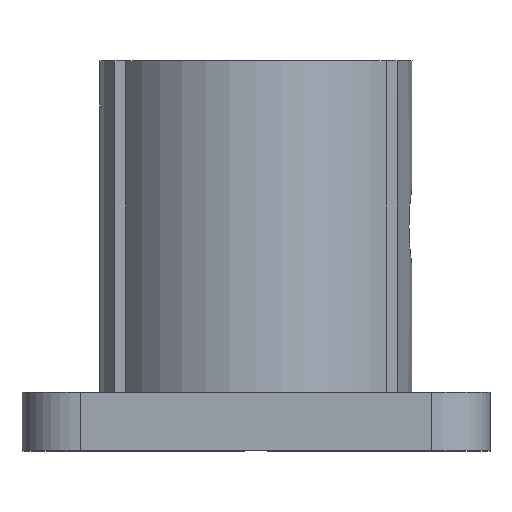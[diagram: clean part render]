
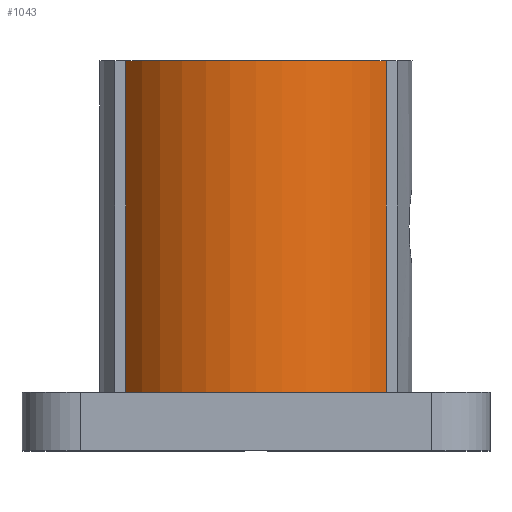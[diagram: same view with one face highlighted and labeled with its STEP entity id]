
A CAD part, top view. The second image highlights one B-rep face of the part: STEP entity #1043.
In plain terms, the highlighted cylindrical face has radius 40 mm (diameter 80 mm), a partial arc.
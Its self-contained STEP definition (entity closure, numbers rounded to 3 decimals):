
#153 = CARTESIAN_POINT ( 'NONE',  ( -33.407, 100., 22. ) ) ;
#445 = LINE ( 'NONE', #461, #450 ) ;
#449 = DIRECTION ( 'NONE',  ( 0., -1., 0. ) ) ;
#450 = VECTOR ( 'NONE', #449, 1000. ) ;
#456 = CARTESIAN_POINT ( 'NONE',  ( 33.407, 15., 22. ) ) ;
#457 = DIRECTION ( 'NONE',  ( 0., 0., -1. ) ) ;
#458 = DIRECTION ( 'NONE',  ( 0., -1., 0. ) ) ;
#459 = CARTESIAN_POINT ( 'NONE',  ( 0., 15., 0. ) ) ;
#460 = AXIS2_PLACEMENT_3D ( 'NONE', #459, #458, #457 ) ;
#461 = CARTESIAN_POINT ( 'NONE',  ( 33.407, 0., 22. ) ) ;
#463 = CARTESIAN_POINT ( 'NONE',  ( -33.407, 15., 22. ) ) ;
#469 = CIRCLE ( 'NONE', #460, 40. ) ;
#535 = FACE_OUTER_BOUND ( 'NONE', #1044, .T. ) ;
#550 = CARTESIAN_POINT ( 'NONE',  ( 0., 0., 0. ) ) ;
#551 = AXIS2_PLACEMENT_3D ( 'NONE', #550, #566, #565 ) ;
#552 = CYLINDRICAL_SURFACE ( 'NONE', #551, 40. ) ;
#565 = DIRECTION ( 'NONE',  ( 0., 0., -1. ) ) ;
#566 = DIRECTION ( 'NONE',  ( 0., -1., 0. ) ) ;
#1004 = EDGE_CURVE ( 'NONE', #1152, #1072, #2228, .T. ) ;
#1026 = VERTEX_POINT ( 'NONE', #2391 ) ;
#1027 = ORIENTED_EDGE ( 'NONE', *, *, #1028, .F. ) ;
#1028 = EDGE_CURVE ( 'NONE', #1152, #1026, #2390, .T. ) ;
#1043 = ADVANCED_FACE ( 'NONE', ( #535 ), #552, .T. ) ;
#1044 = EDGE_LOOP ( 'NONE', ( #1080, #1081, #1084, #1027 ) ) ;
#1072 = VERTEX_POINT ( 'NONE', #463 ) ;
#1080 = ORIENTED_EDGE ( 'NONE', *, *, #1004, .T. ) ;
#1081 = ORIENTED_EDGE ( 'NONE', *, *, #1082, .F. ) ;
#1082 = EDGE_CURVE ( 'NONE', #1083, #1072, #469, .T. ) ;
#1083 = VERTEX_POINT ( 'NONE', #456 ) ;
#1084 = ORIENTED_EDGE ( 'NONE', *, *, #1085, .F. ) ;
#1085 = EDGE_CURVE ( 'NONE', #1026, #1083, #445, .T. ) ;
#1152 = VERTEX_POINT ( 'NONE', #153 ) ;
#1945 = DIRECTION ( 'NONE',  ( 0., 0., -1. ) ) ;
#2225 = DIRECTION ( 'NONE',  ( 0., -1., 0. ) ) ;
#2226 = VECTOR ( 'NONE', #2225, 1000. ) ;
#2227 = CARTESIAN_POINT ( 'NONE',  ( -33.407, 0., 22. ) ) ;
#2228 = LINE ( 'NONE', #2227, #2226 ) ;
#2387 = DIRECTION ( 'NONE',  ( 0., 1., 0. ) ) ;
#2388 = CARTESIAN_POINT ( 'NONE',  ( 0., 100., 0. ) ) ;
#2389 = AXIS2_PLACEMENT_3D ( 'NONE', #2388, #2387, #1945 ) ;
#2390 = CIRCLE ( 'NONE', #2389, 40. ) ;
#2391 = CARTESIAN_POINT ( 'NONE',  ( 33.407, 100., 22. ) ) ;
